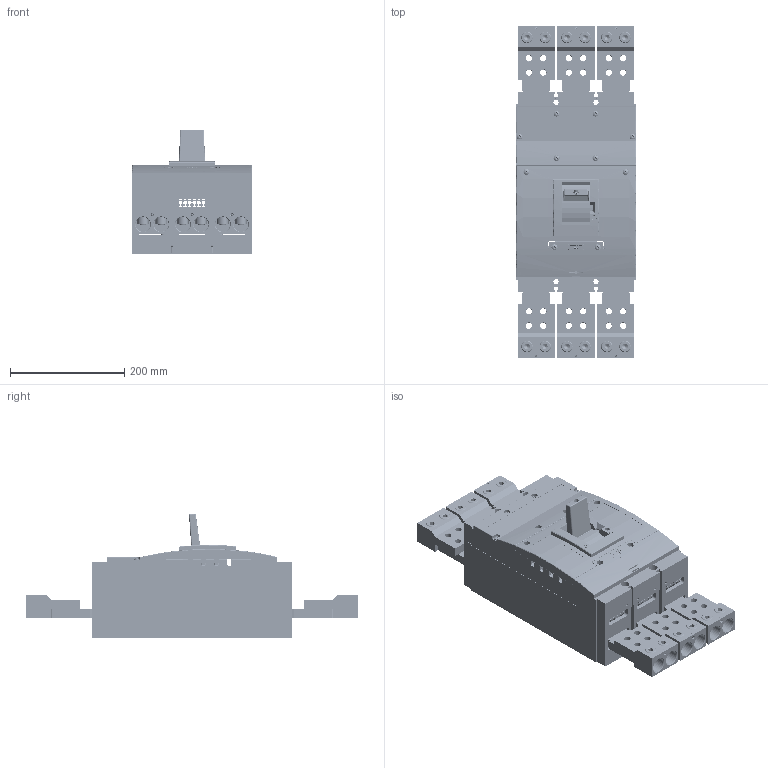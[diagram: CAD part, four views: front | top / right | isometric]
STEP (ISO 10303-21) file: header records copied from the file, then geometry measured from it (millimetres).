
FILE_DESCRIPTION (( 'STEP AP214' ), '1' );
FILE_NAME ('BL____SE305__SE-BL__CS-BL-B002.step', '2011-09-08T10:29:29', ( 'Radek Veselý' ), ( 'Siemens and Partners' ), 'SwSTEP 2.0', 'SolidWorks 2006303', '' );
FILE_SCHEMA (( 'AUTOMOTIVE_DESIGN' ));
Length unit declared in the file: millimetre
Products named in the file (1): BL____SE305__SE-BL__CS-BL-B002
Bounding box: 210 x 582 x 218.52 mm (x, y, z)
Volume: 4455047.2 mm3; surface area: 1633588.3 mm2
Topology: 69 solids, 69 shells, 7239 faces, 19458 edges, 12389 vertices
Faces by surface type: plane 3765, cylinder 2417, cone 606, sphere 182, torus 139, bspline 130
Entity records: 320223 total; most frequent: CARTESIAN_POINT 56290, ORIENTED_EDGE 38562, DIRECTION 38220, EDGE_CURVE 19281, AXIS2_PLACEMENT_3D 13042, VERTEX_POINT 12379, VECTOR 12136, LINE 12136
